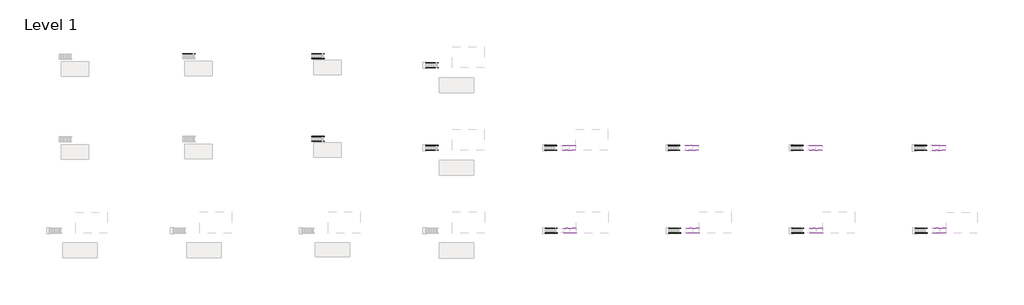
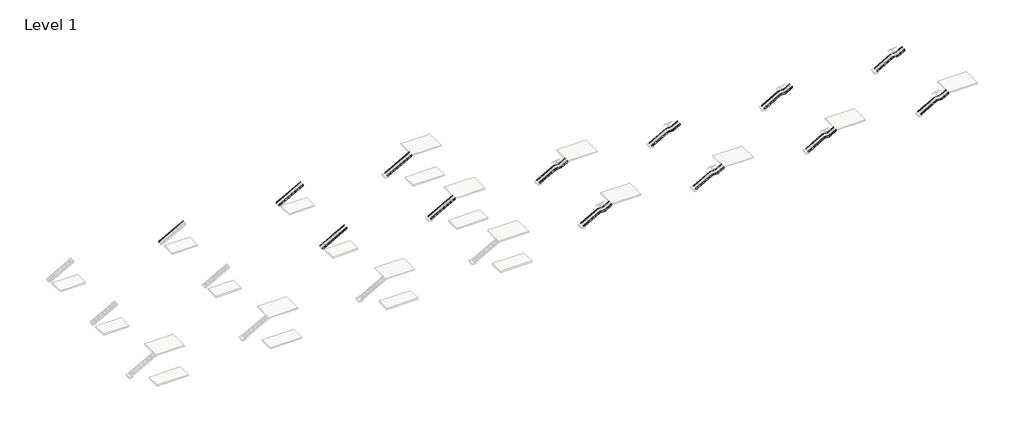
# One storey, part 36 of 36: 57 members.
"""IFC4 building model written with IfcOpenShell, lengths in millimetres."""

from ifc_helpers import new_model, si_unit, frame, origin, place, context, project, spatial, polyline, outline, extrude, element, save

model = new_model("IFC4")

# Units and contexts
model_context = context("Model", 3, world=origin())
ifc_project = project(units=[si_unit("LENGTHUNIT", "METRE", prefix="MILLI")], contexts=[model_context])

# Site, building, storey
site = spatial("IfcSite", under=ifc_project)
building = spatial("IfcBuilding", under=site)
storey = spatial("IfcBuildingStorey", under=building, Name="Level 1", Elevation=0.0)

# Members
placement = place(None, origin())
element("IfcMember", 1, ObjectType="Stringer - 2\" Width", at=placement, inside=storey, context=model_context, shape_type="SweptSolid", body=[
    extrude(outline(polyline([(177.1989729, 37781.2574767), (0.0, 37781.2574767), (0.0, 38066.3931113), (2753.9260175, 43115.2574767), (3086.6535184, 43115.2574767), (177.1989729, 37781.2574767)])), frame((0.0, 35033.077022, 0.0), z_axis=(0.0, 1.0, 0.0), x_axis=(0.0, 0.0, 1.0)), (0.0, 0.0, 1.0), 50.8),
])
element("IfcMember", 2, ObjectType="Stringer - 2\" Width", at=placement, inside=storey, context=model_context, shape_type="SweptSolid", body=[
    extrude(outline(polyline([(177.1989729, 37781.2574767), (0.0, 37781.2574767), (0.0, 38066.3931113), (2753.9260175, 43115.2574767), (3086.6535184, 43115.2574767), (177.1989729, 37781.2574767)])), frame((0.0, 34067.877022, 0.0), z_axis=(0.0, 1.0, 0.0), x_axis=(0.0, 0.0, 1.0)), (0.0, 0.0, 1.0), 50.8),
])
element("IfcMember", 3, ObjectType="Stringer - 2\" Width", at=placement, inside=storey, context=model_context, shape_type="SweptSolid", body=[
    extrude(outline(polyline([(177.1989729, 60459.0310647), (0.0, 60459.0310647), (0.0, 60744.1666993), (2753.9260175, 65793.0310647), (3086.6535184, 65793.0310647), (177.1989729, 60459.0310647)])), frame((0.0, 33228.3530185, 0.0), z_axis=(0.0, 1.0, 0.0), x_axis=(0.0, 0.0, 1.0)), (0.0, 0.0, 1.0), 50.8),
])
element("IfcMember", 4, ObjectType="Stringer - 2\" Width", at=placement, inside=storey, context=model_context, shape_type="SweptSolid", body=[
    extrude(outline(polyline([(177.1989729, 60459.0310647), (0.0, 60459.0310647), (0.0, 60744.1666993), (2753.9260175, 65793.0310647), (3086.6535184, 65793.0310647), (177.1989729, 60459.0310647)])), frame((0.0, 32263.1530185, 0.0), z_axis=(0.0, 1.0, 0.0), x_axis=(0.0, 0.0, 1.0)), (0.0, 0.0, 1.0), 50.8),
])
element("IfcMember", 5, ObjectType="Stringer - 2\" Width", at=placement, inside=storey, context=model_context, shape_type="SweptSolid", body=[
    extrude(outline(polyline([(177.1989729, 37781.2574767), (0.0, 37781.2574767), (0.0, 38066.3931113), (2753.9260175, 43115.2574767), (3086.6535184, 43115.2574767), (177.1989729, 37781.2574767)])), frame((0.0, 51500.9904464, 0.0), z_axis=(0.0, 1.0, 0.0), x_axis=(0.0, 0.0, 1.0)), (0.0, 0.0, 1.0), 50.8),
])
element("IfcMember", 6, ObjectType="Stringer - 2\" Width", at=placement, inside=storey, context=model_context, shape_type="SweptSolid", body=[
    extrude(outline(polyline([(177.1989729, 37781.2574767), (0.0, 37781.2574767), (0.0, 38066.3931113), (2753.9260175, 43115.2574767), (3086.6535184, 43115.2574767), (177.1989729, 37781.2574767)])), frame((0.0, 50535.7904464, 0.0), z_axis=(0.0, 1.0, 0.0), x_axis=(0.0, 0.0, 1.0)), (0.0, 0.0, 1.0), 50.8),
])
element("IfcMember", 7, ObjectType="Stringer - 2\" Width", at=placement, inside=storey, context=model_context, shape_type="SweptSolid", body=[
    extrude(outline(polyline([(177.1989729, 60459.0310647), (0.0, 60459.0310647), (0.0, 60744.1666993), (2753.9260175, 65793.0310647), (3086.6535184, 65793.0310647), (177.1989729, 60459.0310647)])), frame((0.0, 49696.2664429, 0.0), z_axis=(0.0, 1.0, 0.0), x_axis=(0.0, 0.0, 1.0)), (0.0, 0.0, 1.0), 50.8),
])
element("IfcMember", 8, ObjectType="Stringer - 2\" Width", at=placement, inside=storey, context=model_context, shape_type="SweptSolid", body=[
    extrude(outline(polyline([(177.1989729, 60459.0310647), (0.0, 60459.0310647), (0.0, 60744.1666993), (2753.9260175, 65793.0310647), (3086.6535184, 65793.0310647), (177.1989729, 60459.0310647)])), frame((0.0, 48731.0664429, 0.0), z_axis=(0.0, 1.0, 0.0), x_axis=(0.0, 0.0, 1.0)), (0.0, 0.0, 1.0), 50.8),
])
element("IfcMember", 9, ObjectType="Stringer - 2\" Width", at=placement, inside=storey, context=model_context, shape_type="SweptSolid", body=[
    extrude(outline(polyline([(177.1989729, 12116.1449767), (0.0, 12116.1449767), (0.0, 12401.2806113), (2753.9260175, 17450.1449767), (3086.6535184, 17450.1449767), (177.1989729, 12116.1449767)])), frame((0.0, 51500.9904464, 0.0), z_axis=(0.0, 1.0, 0.0), x_axis=(0.0, 0.0, 1.0)), (0.0, 0.0, 1.0), 50.8),
])
element("IfcMember", 10, ObjectType="Stringer - 2\" Width", at=placement, inside=storey, context=model_context, shape_type="SweptSolid", body=[
    extrude(outline(polyline([(179.6072535, 84297.8048368), (0.0, 84297.8048368), (0.0, 84572.2385153), (1916.7928571, 87926.6260153), (2208.8928571, 87849.0546432), (179.6072535, 84297.8048368)])), frame((0.0, 16760.4395941, 0.0), z_axis=(0.0, 1.0, 0.0), x_axis=(0.0, 0.0, 1.0)), (0.0, 0.0, 1.0), 50.8),
])
element("IfcMember", 11, ObjectType="Stringer - 2\" Width", at=placement, inside=storey, context=model_context, shape_type="SweptSolid", body=[
    extrude(outline(polyline([(179.6072535, 84297.8048368), (0.0, 84297.8048368), (0.0, 84572.2385153), (1916.7928571, 87926.6260153), (2208.8928571, 87849.0546432), (179.6072535, 84297.8048368)])), frame((0.0, 15795.2395941, 0.0), z_axis=(0.0, 1.0, 0.0), x_axis=(0.0, 0.0, 1.0)), (0.0, 0.0, 1.0), 50.8),
])
element("IfcMember", 12, ObjectType="Stringer - 2\" Width", at=placement, inside=storey, context=model_context, shape_type="SweptSolid", body=[
    extrude(outline(polyline([(2208.8928571, 88915.8546432), (1916.7928571, 88993.4260153), (2746.037898, 90444.6048368), (3048.0, 90444.6048368), (3048.0, 90384.2921432), (2208.8928571, 88915.8546432)])), frame((0.0, 16760.4395941, 0.0), z_axis=(0.0, 1.0, 0.0), x_axis=(0.0, 0.0, 1.0)), (0.0, 0.0, 1.0), 50.8),
])
element("IfcMember", 13, ObjectType="Stringer - 2\" Width", at=placement, inside=storey, context=model_context, shape_type="SweptSolid", body=[
    extrude(outline(polyline([(2208.8928571, 88915.8546432), (1916.7928571, 88993.4260153), (2746.037898, 90444.6048368), (3048.0, 90444.6048368), (3048.0, 90384.2921432), (2208.8928571, 88915.8546432)])), frame((0.0, 15795.2395941, 0.0), z_axis=(0.0, 1.0, 0.0), x_axis=(0.0, 0.0, 1.0)), (0.0, 0.0, 1.0), 50.8),
])
element("IfcMember", 14, ObjectType="Stringer - 2\" Width", at=placement, inside=storey, context=model_context, shape_type="SweptSolid", body=[
    extrude(outline(polyline([(1916.7928571, 88993.4260153), (2208.8928571, 88915.8546432), (2208.8928571, 87849.0546432), (1916.7928571, 87926.6260153), (1916.7928571, 88993.4260153)])), frame((0.0, 16760.4395941, 0.0), z_axis=(0.0, 1.0, 0.0), x_axis=(0.0, 0.0, 1.0)), (0.0, 0.0, 1.0), 50.8),
])
element("IfcMember", 15, ObjectType="Stringer - 2\" Width", at=placement, inside=storey, context=model_context, shape_type="SweptSolid", body=[
    extrude(outline(polyline([(2208.8928571, 87849.0546432), (1916.7928571, 87926.6260153), (1916.7928571, 88993.4260153), (2208.8928571, 88915.8546432), (2208.8928571, 87849.0546432)])), frame((0.0, 15795.2395941, 0.0), z_axis=(0.0, 1.0, 0.0), x_axis=(0.0, 0.0, 1.0)), (0.0, 0.0, 1.0), 50.8),
])
element("IfcMember", 16, ObjectType="Stringer - 2\" Width", at=placement, inside=storey, context=model_context, shape_type="SweptSolid", body=[
    extrude(outline(polyline([(179.6072535, 84196.2048368), (0.0, 84196.2048368), (0.0, 84470.6385153), (1916.7928571, 87825.0260153), (2208.8928571, 87747.4546432), (179.6072535, 84196.2048368)])), frame((0.0, 33228.3530185, 0.0), z_axis=(0.0, 1.0, 0.0), x_axis=(0.0, 0.0, 1.0)), (0.0, 0.0, 1.0), 50.8),
])
element("IfcMember", 17, ObjectType="Stringer - 2\" Width", at=placement, inside=storey, context=model_context, shape_type="SweptSolid", body=[
    extrude(outline(polyline([(179.6072535, 84196.2048368), (0.0, 84196.2048368), (0.0, 84470.6385153), (1916.7928571, 87825.0260153), (2208.8928571, 87747.4546432), (179.6072535, 84196.2048368)])), frame((0.0, 32263.1530185, 0.0), z_axis=(0.0, 1.0, 0.0), x_axis=(0.0, 0.0, 1.0)), (0.0, 0.0, 1.0), 50.8),
])
element("IfcMember", 18, ObjectType="Stringer - 2\" Width", at=placement, inside=storey, context=model_context, shape_type="SweptSolid", body=[
    extrude(outline(polyline([(2208.8928571, 88814.2546432), (1916.7928571, 88891.8260153), (2746.037898, 90343.0048368), (3048.0, 90343.0048368), (3048.0, 90282.6921432), (2208.8928571, 88814.2546432)])), frame((0.0, 33228.3530185, 0.0), z_axis=(0.0, 1.0, 0.0), x_axis=(0.0, 0.0, 1.0)), (0.0, 0.0, 1.0), 50.8),
])
element("IfcMember", 19, ObjectType="Stringer - 2\" Width", at=placement, inside=storey, context=model_context, shape_type="SweptSolid", body=[
    extrude(outline(polyline([(2208.8928571, 88814.2546432), (1916.7928571, 88891.8260153), (2746.037898, 90343.0048368), (3048.0, 90343.0048368), (3048.0, 90282.6921432), (2208.8928571, 88814.2546432)])), frame((0.0, 32263.1530185, 0.0), z_axis=(0.0, 1.0, 0.0), x_axis=(0.0, 0.0, 1.0)), (0.0, 0.0, 1.0), 50.8),
])
element("IfcMember", 20, ObjectType="Stringer - 2\" Width", at=placement, inside=storey, context=model_context, shape_type="SweptSolid", body=[
    extrude(outline(polyline([(1916.7928571, 88891.8260153), (2208.8928571, 88814.2546432), (2208.8928571, 87747.4546432), (1916.7928571, 87825.0260153), (1916.7928571, 88891.8260153)])), frame((0.0, 33228.3530185, 0.0), z_axis=(0.0, 1.0, 0.0), x_axis=(0.0, 0.0, 1.0)), (0.0, 0.0, 1.0), 50.8),
])
element("IfcMember", 21, ObjectType="Stringer - 2\" Width", at=placement, inside=storey, context=model_context, shape_type="SweptSolid", body=[
    extrude(outline(polyline([(2208.8928571, 87747.4546432), (1916.7928571, 87825.0260153), (1916.7928571, 88891.8260153), (2208.8928571, 88814.2546432), (2208.8928571, 87747.4546432)])), frame((0.0, 32263.1530185, 0.0), z_axis=(0.0, 1.0, 0.0), x_axis=(0.0, 0.0, 1.0)), (0.0, 0.0, 1.0), 50.8),
])
element("IfcMember", 22, ObjectType="Stringer - 2\" Width", at=placement, inside=storey, context=model_context, shape_type="SweptSolid", body=[
    extrude(outline(polyline([(179.6072535, 108850.2736551), (0.0, 108850.2736551), (0.0, 109124.7073335), (1916.7928571, 112479.0948335), (2208.8928571, 112401.5234614), (179.6072535, 108850.2736551)])), frame((0.0, 16760.4395941, 0.0), z_axis=(0.0, 1.0, 0.0), x_axis=(0.0, 0.0, 1.0)), (0.0, 0.0, 1.0), 50.8),
])
element("IfcMember", 23, ObjectType="Stringer - 2\" Width", at=placement, inside=storey, context=model_context, shape_type="SweptSolid", body=[
    extrude(outline(polyline([(179.6072535, 108850.2736551), (0.0, 108850.2736551), (0.0, 109124.7073335), (1916.7928571, 112479.0948335), (2208.8928571, 112401.5234614), (179.6072535, 108850.2736551)])), frame((0.0, 15795.2395941, 0.0), z_axis=(0.0, 1.0, 0.0), x_axis=(0.0, 0.0, 1.0)), (0.0, 0.0, 1.0), 50.8),
])
element("IfcMember", 24, ObjectType="Stringer - 2\" Width", at=placement, inside=storey, context=model_context, shape_type="SweptSolid", body=[
    extrude(outline(polyline([(2208.8928571, 113468.3234614), (1916.7928571, 113545.8948335), (2746.037898, 114997.0736551), (3048.0, 114997.0736551), (3048.0, 114936.7609614), (2208.8928571, 113468.3234614)])), frame((0.0, 16760.4395941, 0.0), z_axis=(0.0, 1.0, 0.0), x_axis=(0.0, 0.0, 1.0)), (0.0, 0.0, 1.0), 50.8),
])
element("IfcMember", 25, ObjectType="Stringer - 2\" Width", at=placement, inside=storey, context=model_context, shape_type="SweptSolid", body=[
    extrude(outline(polyline([(2208.8928571, 113468.3234614), (1916.7928571, 113545.8948335), (2746.037898, 114997.0736551), (3048.0, 114997.0736551), (3048.0, 114936.7609614), (2208.8928571, 113468.3234614)])), frame((0.0, 15795.2395941, 0.0), z_axis=(0.0, 1.0, 0.0), x_axis=(0.0, 0.0, 1.0)), (0.0, 0.0, 1.0), 50.8),
])
element("IfcMember", 26, ObjectType="Stringer - 2\" Width", at=placement, inside=storey, context=model_context, shape_type="SweptSolid", body=[
    extrude(outline(polyline([(1916.7928571, 113545.8948335), (2208.8928571, 113468.3234614), (2208.8928571, 112401.5234614), (1916.7928571, 112479.0948335), (1916.7928571, 113545.8948335)])), frame((0.0, 16760.4395941, 0.0), z_axis=(0.0, 1.0, 0.0), x_axis=(0.0, 0.0, 1.0)), (0.0, 0.0, 1.0), 50.8),
])
element("IfcMember", 27, ObjectType="Stringer - 2\" Width", at=placement, inside=storey, context=model_context, shape_type="SweptSolid", body=[
    extrude(outline(polyline([(2208.8928571, 112401.5234614), (1916.7928571, 112479.0948335), (1916.7928571, 113545.8948335), (2208.8928571, 113468.3234614), (2208.8928571, 112401.5234614)])), frame((0.0, 15795.2395941, 0.0), z_axis=(0.0, 1.0, 0.0), x_axis=(0.0, 0.0, 1.0)), (0.0, 0.0, 1.0), 50.8),
])
element("IfcMember", 28, ObjectType="Stringer - 2\" Width", at=placement, inside=storey, context=model_context, shape_type="SweptSolid", body=[
    extrude(outline(polyline([(179.6072535, 108746.1786089), (0.0, 108746.1786089), (0.0, 109020.6122873), (1916.7928571, 112374.9997873), (2208.8928571, 112297.4284152), (179.6072535, 108746.1786089)])), frame((0.0, 33228.3530185, 0.0), z_axis=(0.0, 1.0, 0.0), x_axis=(0.0, 0.0, 1.0)), (0.0, 0.0, 1.0), 50.8),
])
element("IfcMember", 29, ObjectType="Stringer - 2\" Width", at=placement, inside=storey, context=model_context, shape_type="SweptSolid", body=[
    extrude(outline(polyline([(179.6072535, 108746.1786089), (0.0, 108746.1786089), (0.0, 109020.6122873), (1916.7928571, 112374.9997873), (2208.8928571, 112297.4284152), (179.6072535, 108746.1786089)])), frame((0.0, 32263.1530185, 0.0), z_axis=(0.0, 1.0, 0.0), x_axis=(0.0, 0.0, 1.0)), (0.0, 0.0, 1.0), 50.8),
])
element("IfcMember", 30, ObjectType="Stringer - 2\" Width", at=placement, inside=storey, context=model_context, shape_type="SweptSolid", body=[
    extrude(outline(polyline([(2208.8928571, 113364.2284152), (1916.7928571, 113441.7997873), (2746.037898, 114892.9786089), (3048.0, 114892.9786089), (3048.0, 114832.6659152), (2208.8928571, 113364.2284152)])), frame((0.0, 33228.3530185, 0.0), z_axis=(0.0, 1.0, 0.0), x_axis=(0.0, 0.0, 1.0)), (0.0, 0.0, 1.0), 50.8),
])
element("IfcMember", 31, ObjectType="Stringer - 2\" Width", at=placement, inside=storey, context=model_context, shape_type="SweptSolid", body=[
    extrude(outline(polyline([(2208.8928571, 113364.2284152), (1916.7928571, 113441.7997873), (2746.037898, 114892.9786089), (3048.0, 114892.9786089), (3048.0, 114832.6659152), (2208.8928571, 113364.2284152)])), frame((0.0, 32263.1530185, 0.0), z_axis=(0.0, 1.0, 0.0), x_axis=(0.0, 0.0, 1.0)), (0.0, 0.0, 1.0), 50.8),
])
element("IfcMember", 32, ObjectType="Stringer - 2\" Width", at=placement, inside=storey, context=model_context, shape_type="SweptSolid", body=[
    extrude(outline(polyline([(1916.7928571, 113441.7997873), (2208.8928571, 113364.2284152), (2208.8928571, 112297.4284152), (1916.7928571, 112374.9997873), (1916.7928571, 113441.7997873)])), frame((0.0, 33228.3530185, 0.0), z_axis=(0.0, 1.0, 0.0), x_axis=(0.0, 0.0, 1.0)), (0.0, 0.0, 1.0), 50.8),
])
element("IfcMember", 33, ObjectType="Stringer - 2\" Width", at=placement, inside=storey, context=model_context, shape_type="SweptSolid", body=[
    extrude(outline(polyline([(2208.8928571, 112297.4284152), (1916.7928571, 112374.9997873), (1916.7928571, 113441.7997873), (2208.8928571, 113364.2284152), (2208.8928571, 112297.4284152)])), frame((0.0, 32263.1530185, 0.0), z_axis=(0.0, 1.0, 0.0), x_axis=(0.0, 0.0, 1.0)), (0.0, 0.0, 1.0), 50.8),
])
element("IfcMember", 34, ObjectType="Stringer - 2\" Width", at=placement, inside=storey, context=model_context, shape_type="SweptSolid", body=[
    extrude(outline(polyline([(179.6072535, 133400.2474271), (0.0, 133400.2474271), (0.0, 133674.6811056), (1916.7928571, 137029.0686056), (2208.8928571, 136951.4972335), (179.6072535, 133400.2474271)])), frame((0.0, 16760.4395941, 0.0), z_axis=(0.0, 1.0, 0.0), x_axis=(0.0, 0.0, 1.0)), (0.0, 0.0, 1.0), 50.8),
])
element("IfcMember", 35, ObjectType="Stringer - 2\" Width", at=placement, inside=storey, context=model_context, shape_type="SweptSolid", body=[
    extrude(outline(polyline([(179.6072535, 133400.2474271), (0.0, 133400.2474271), (0.0, 133674.6811056), (1916.7928571, 137029.0686056), (2208.8928571, 136951.4972335), (179.6072535, 133400.2474271)])), frame((0.0, 15795.2395941, 0.0), z_axis=(0.0, 1.0, 0.0), x_axis=(0.0, 0.0, 1.0)), (0.0, 0.0, 1.0), 50.8),
])
element("IfcMember", 36, ObjectType="Stringer - 2\" Width", at=placement, inside=storey, context=model_context, shape_type="SweptSolid", body=[
    extrude(outline(polyline([(2208.8928571, 138018.2972335), (1916.7928571, 138095.8686056), (2746.037898, 139547.0474271), (3048.0, 139547.0474271), (3048.0, 139486.7347335), (2208.8928571, 138018.2972335)])), frame((0.0, 16760.4395941, 0.0), z_axis=(0.0, 1.0, 0.0), x_axis=(0.0, 0.0, 1.0)), (0.0, 0.0, 1.0), 50.8),
])
element("IfcMember", 37, ObjectType="Stringer - 2\" Width", at=placement, inside=storey, context=model_context, shape_type="SweptSolid", body=[
    extrude(outline(polyline([(2208.8928571, 138018.2972335), (1916.7928571, 138095.8686056), (2746.037898, 139547.0474271), (3048.0, 139547.0474271), (3048.0, 139486.7347335), (2208.8928571, 138018.2972335)])), frame((0.0, 15795.2395941, 0.0), z_axis=(0.0, 1.0, 0.0), x_axis=(0.0, 0.0, 1.0)), (0.0, 0.0, 1.0), 50.8),
])
element("IfcMember", 38, ObjectType="Stringer - 2\" Width", at=placement, inside=storey, context=model_context, shape_type="SweptSolid", body=[
    extrude(outline(polyline([(1916.7928571, 138095.8686056), (2208.8928571, 138018.2972335), (2208.8928571, 136951.4972335), (1916.7928571, 137029.0686056), (1916.7928571, 138095.8686056)])), frame((0.0, 16760.4395941, 0.0), z_axis=(0.0, 1.0, 0.0), x_axis=(0.0, 0.0, 1.0)), (0.0, 0.0, 1.0), 50.8),
])
element("IfcMember", 39, ObjectType="Stringer - 2\" Width", at=placement, inside=storey, context=model_context, shape_type="SweptSolid", body=[
    extrude(outline(polyline([(2208.8928571, 136951.4972335), (1916.7928571, 137029.0686056), (1916.7928571, 138095.8686056), (2208.8928571, 138018.2972335), (2208.8928571, 136951.4972335)])), frame((0.0, 15795.2395941, 0.0), z_axis=(0.0, 1.0, 0.0), x_axis=(0.0, 0.0, 1.0)), (0.0, 0.0, 1.0), 50.8),
])
element("IfcMember", 40, ObjectType="Stringer - 2\" Width", at=placement, inside=storey, context=model_context, shape_type="SweptSolid", body=[
    extrude(outline(polyline([(179.6072535, 133296.1523809), (0.0, 133296.1523809), (0.0, 133570.5860594), (1916.7928571, 136924.9735594), (2208.8928571, 136847.4021873), (179.6072535, 133296.1523809)])), frame((0.0, 33228.3530185, 0.0), z_axis=(0.0, 1.0, 0.0), x_axis=(0.0, 0.0, 1.0)), (0.0, 0.0, 1.0), 50.8),
])
element("IfcMember", 41, ObjectType="Stringer - 2\" Width", at=placement, inside=storey, context=model_context, shape_type="SweptSolid", body=[
    extrude(outline(polyline([(179.6072535, 133296.1523809), (0.0, 133296.1523809), (0.0, 133570.5860594), (1916.7928571, 136924.9735594), (2208.8928571, 136847.4021873), (179.6072535, 133296.1523809)])), frame((0.0, 32263.1530185, 0.0), z_axis=(0.0, 1.0, 0.0), x_axis=(0.0, 0.0, 1.0)), (0.0, 0.0, 1.0), 50.8),
])
element("IfcMember", 42, ObjectType="Stringer - 2\" Width", at=placement, inside=storey, context=model_context, shape_type="SweptSolid", body=[
    extrude(outline(polyline([(2208.8928571, 137914.2021873), (1916.7928571, 137991.7735594), (2746.037898, 139442.9523809), (3048.0, 139442.9523809), (3048.0, 139382.6396873), (2208.8928571, 137914.2021873)])), frame((0.0, 33228.3530185, 0.0), z_axis=(0.0, 1.0, 0.0), x_axis=(0.0, 0.0, 1.0)), (0.0, 0.0, 1.0), 50.8),
])
element("IfcMember", 43, ObjectType="Stringer - 2\" Width", at=placement, inside=storey, context=model_context, shape_type="SweptSolid", body=[
    extrude(outline(polyline([(2208.8928571, 137914.2021873), (1916.7928571, 137991.7735594), (2746.037898, 139442.9523809), (3048.0, 139442.9523809), (3048.0, 139382.6396873), (2208.8928571, 137914.2021873)])), frame((0.0, 32263.1530185, 0.0), z_axis=(0.0, 1.0, 0.0), x_axis=(0.0, 0.0, 1.0)), (0.0, 0.0, 1.0), 50.8),
])
element("IfcMember", 44, ObjectType="Stringer - 2\" Width", at=placement, inside=storey, context=model_context, shape_type="SweptSolid", body=[
    extrude(outline(polyline([(1916.7928571, 137991.7735594), (2208.8928571, 137914.2021873), (2208.8928571, 136847.4021873), (1916.7928571, 136924.9735594), (1916.7928571, 137991.7735594)])), frame((0.0, 33228.3530185, 0.0), z_axis=(0.0, 1.0, 0.0), x_axis=(0.0, 0.0, 1.0)), (0.0, 0.0, 1.0), 50.8),
])
element("IfcMember", 45, ObjectType="Stringer - 2\" Width", at=placement, inside=storey, context=model_context, shape_type="SweptSolid", body=[
    extrude(outline(polyline([(2208.8928571, 136847.4021873), (1916.7928571, 136924.9735594), (1916.7928571, 137991.7735594), (2208.8928571, 137914.2021873), (2208.8928571, 136847.4021873)])), frame((0.0, 32263.1530185, 0.0), z_axis=(0.0, 1.0, 0.0), x_axis=(0.0, 0.0, 1.0)), (0.0, 0.0, 1.0), 50.8),
])
element("IfcMember", 46, ObjectType="Stringer - 2\" Width", at=placement, inside=storey, context=model_context, shape_type="SweptSolid", body=[
    extrude(outline(polyline([(179.6072535, 157950.2211992), (0.0, 157950.2211992), (0.0, 158224.6548776), (1916.7928571, 161579.0423776), (2208.8928571, 161501.4710055), (179.6072535, 157950.2211992)])), frame((0.0, 16769.2539886, 0.0), z_axis=(0.0, 1.0, 0.0), x_axis=(0.0, 0.0, 1.0)), (0.0, 0.0, 1.0), 50.8),
])
element("IfcMember", 47, ObjectType="Stringer - 2\" Width", at=placement, inside=storey, context=model_context, shape_type="SweptSolid", body=[
    extrude(outline(polyline([(179.6072535, 157950.2211992), (0.0, 157950.2211992), (0.0, 158224.6548776), (1916.7928571, 161579.0423776), (2208.8928571, 161501.4710055), (179.6072535, 157950.2211992)])), frame((0.0, 15804.0539886, 0.0), z_axis=(0.0, 1.0, 0.0), x_axis=(0.0, 0.0, 1.0)), (0.0, 0.0, 1.0), 50.8),
])
element("IfcMember", 48, ObjectType="Stringer - 2\" Width", at=placement, inside=storey, context=model_context, shape_type="SweptSolid", body=[
    extrude(outline(polyline([(2208.8928571, 162568.2710055), (1916.7928571, 162645.8423776), (2746.037898, 164097.0211992), (3048.0, 164097.0211992), (3048.0, 164036.7085055), (2208.8928571, 162568.2710055)])), frame((0.0, 16769.2539886, 0.0), z_axis=(0.0, 1.0, 0.0), x_axis=(0.0, 0.0, 1.0)), (0.0, 0.0, 1.0), 50.8),
])
element("IfcMember", 49, ObjectType="Stringer - 2\" Width", at=placement, inside=storey, context=model_context, shape_type="SweptSolid", body=[
    extrude(outline(polyline([(2208.8928571, 162568.2710055), (1916.7928571, 162645.8423776), (2746.037898, 164097.0211992), (3048.0, 164097.0211992), (3048.0, 164036.7085055), (2208.8928571, 162568.2710055)])), frame((0.0, 15804.0539886, 0.0), z_axis=(0.0, 1.0, 0.0), x_axis=(0.0, 0.0, 1.0)), (0.0, 0.0, 1.0), 50.8),
])
element("IfcMember", 50, ObjectType="Stringer - 2\" Width", at=placement, inside=storey, context=model_context, shape_type="SweptSolid", body=[
    extrude(outline(polyline([(1916.7928571, 162645.8423776), (2208.8928571, 162568.2710055), (2208.8928571, 161501.4710055), (1916.7928571, 161579.0423776), (1916.7928571, 162645.8423776)])), frame((0.0, 16769.2539886, 0.0), z_axis=(0.0, 1.0, 0.0), x_axis=(0.0, 0.0, 1.0)), (0.0, 0.0, 1.0), 50.8),
])
element("IfcMember", 51, ObjectType="Stringer - 2\" Width", at=placement, inside=storey, context=model_context, shape_type="SweptSolid", body=[
    extrude(outline(polyline([(2208.8928571, 161501.4710055), (1916.7928571, 161579.0423776), (1916.7928571, 162645.8423776), (2208.8928571, 162568.2710055), (2208.8928571, 161501.4710055)])), frame((0.0, 15804.0539886, 0.0), z_axis=(0.0, 1.0, 0.0), x_axis=(0.0, 0.0, 1.0)), (0.0, 0.0, 1.0), 50.8),
])
element("IfcMember", 52, ObjectType="Stringer - 2\" Width", at=placement, inside=storey, context=model_context, shape_type="SweptSolid", body=[
    extrude(outline(polyline([(179.6072535, 157846.126153), (0.0, 157846.126153), (0.0, 158120.5598314), (1916.7928571, 161474.9473314), (2208.8928571, 161397.3759594), (179.6072535, 157846.126153)])), frame((0.0, 33228.4539886, 0.0), z_axis=(0.0, 1.0, 0.0), x_axis=(0.0, 0.0, 1.0)), (0.0, 0.0, 1.0), 50.8),
])
element("IfcMember", 53, ObjectType="Stringer - 2\" Width", at=placement, inside=storey, context=model_context, shape_type="SweptSolid", body=[
    extrude(outline(polyline([(179.6072535, 157846.126153), (0.0, 157846.126153), (0.0, 158120.5598314), (1916.7928571, 161474.9473314), (2208.8928571, 161397.3759594), (179.6072535, 157846.126153)])), frame((0.0, 32263.2539886, 0.0), z_axis=(0.0, 1.0, 0.0), x_axis=(0.0, 0.0, 1.0)), (0.0, 0.0, 1.0), 50.8),
])
element("IfcMember", 54, ObjectType="Stringer - 2\" Width", at=placement, inside=storey, context=model_context, shape_type="SweptSolid", body=[
    extrude(outline(polyline([(2208.8928571, 162464.1759594), (1916.7928571, 162541.7473314), (2746.037898, 163992.926153), (3048.0, 163992.926153), (3048.0, 163932.6134594), (2208.8928571, 162464.1759594)])), frame((0.0, 33228.4539886, 0.0), z_axis=(0.0, 1.0, 0.0), x_axis=(0.0, 0.0, 1.0)), (0.0, 0.0, 1.0), 50.8),
])
element("IfcMember", 55, ObjectType="Stringer - 2\" Width", at=placement, inside=storey, context=model_context, shape_type="SweptSolid", body=[
    extrude(outline(polyline([(2208.8928571, 162464.1759594), (1916.7928571, 162541.7473314), (2746.037898, 163992.926153), (3048.0, 163992.926153), (3048.0, 163932.6134594), (2208.8928571, 162464.1759594)])), frame((0.0, 32263.2539886, 0.0), z_axis=(0.0, 1.0, 0.0), x_axis=(0.0, 0.0, 1.0)), (0.0, 0.0, 1.0), 50.8),
])
element("IfcMember", 56, ObjectType="Stringer - 2\" Width", at=placement, inside=storey, context=model_context, shape_type="SweptSolid", body=[
    extrude(outline(polyline([(1916.7928571, 162541.7473314), (2208.8928571, 162464.1759594), (2208.8928571, 161397.3759594), (1916.7928571, 161474.9473314), (1916.7928571, 162541.7473314)])), frame((0.0, 33228.4539886, 0.0), z_axis=(0.0, 1.0, 0.0), x_axis=(0.0, 0.0, 1.0)), (0.0, 0.0, 1.0), 50.8),
])
element("IfcMember", 57, ObjectType="Stringer - 2\" Width", at=placement, inside=storey, context=model_context, shape_type="SweptSolid", body=[
    extrude(outline(polyline([(2208.8928571, 161397.3759594), (1916.7928571, 161474.9473314), (1916.7928571, 162541.7473314), (2208.8928571, 162464.1759594), (2208.8928571, 161397.3759594)])), frame((0.0, 32263.2539886, 0.0), z_axis=(0.0, 1.0, 0.0), x_axis=(0.0, 0.0, 1.0)), (0.0, 0.0, 1.0), 50.8),
])

save(model, "model.ifc")
